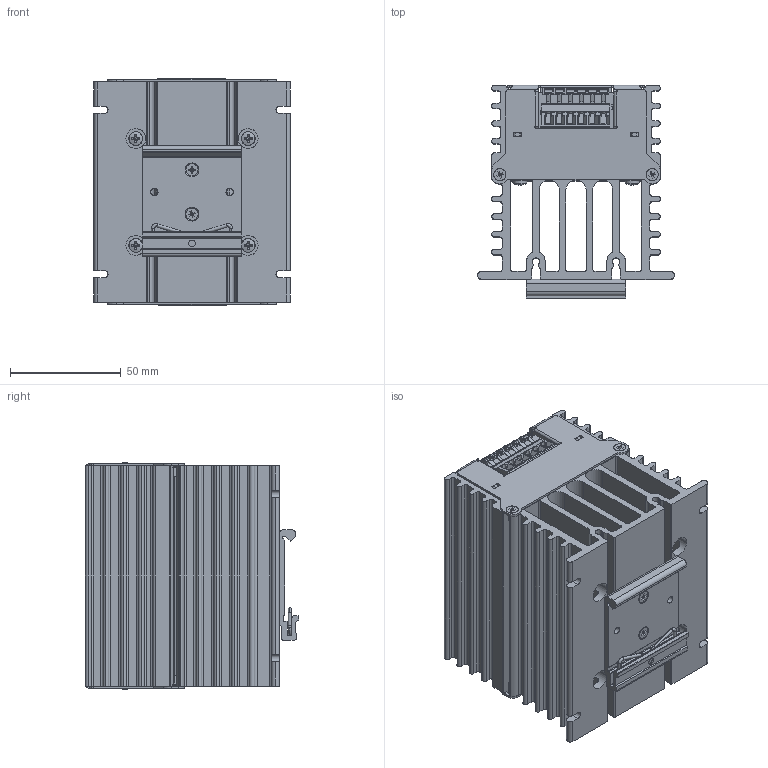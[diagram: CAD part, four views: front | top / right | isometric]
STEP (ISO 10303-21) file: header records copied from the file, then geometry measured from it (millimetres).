
FILE_DESCRIPTION (( 'STEP AP214' ), '1' );
FILE_NAME ('teq-w.din.STEP', '2015-02-13T10:00:59', ( '' ), ( '' ), 'SwSTEP 2.0', 'SolidWorks 2013', '' );
FILE_SCHEMA (( 'AUTOMOTIVE_DESIGN' ));
Length unit declared in the file: millimetre
Products named in the file (14): 257_406; 7Z-0085-A-090811; PT-873A2-031213; teq-filter; teq-board; LED; teq-clip; teq-cover; cross recessed binding head screw_jis-031213_JIS B 1111 Binding head screw M3 x 8 --8N; cross recessed binding head screw_jis-031213_JIS B 1111 Binding head screw M3 x 10 --10N; tep-module; teq-body; teq-w.din; cross recessed countersunk head screw_jis-M3_JIS 1111 Cross recessed countersunk head screw - M3 x 6
Assembly tree (28 placements, depth 2):
  teq-w.din
    teq-body
    tep-module
    cross recessed binding head screw_jis-031213_JIS B 1111 Binding head screw M3 x 10 --10N  x4
    cross recessed binding head screw_jis-031213_JIS B 1111 Binding head screw M3 x 8 --8N  x4
    teq-cover
    teq-clip
    LED
    teq-board
    teq-filter
    PT-873A2-031213
    7Z-0085-A-090811  x4
    257_406  x2
    cross recessed countersunk head screw_jis-M3_JIS 1111 Cross recessed countersunk head screw - M3 x 6  x6
Bounding box: 88.9 x 96.3 x 102.81 mm (x, y, z)
Volume: 313470.1 mm3; surface area: 182352.1 mm2
Topology: 29 solids, 29 shells, 2235 faces, 5950 edges, 3819 vertices
Faces by surface type: plane 1259, cylinder 694, cone 226, bspline 56
Entity records: 62772 total; most frequent: CARTESIAN_POINT 9355, DIRECTION 7903, ORIENTED_EDGE 7754, EDGE_CURVE 3877, AXIS2_PLACEMENT_3D 2776, VERTEX_POINT 2525, VECTOR 2351, LINE 2351
